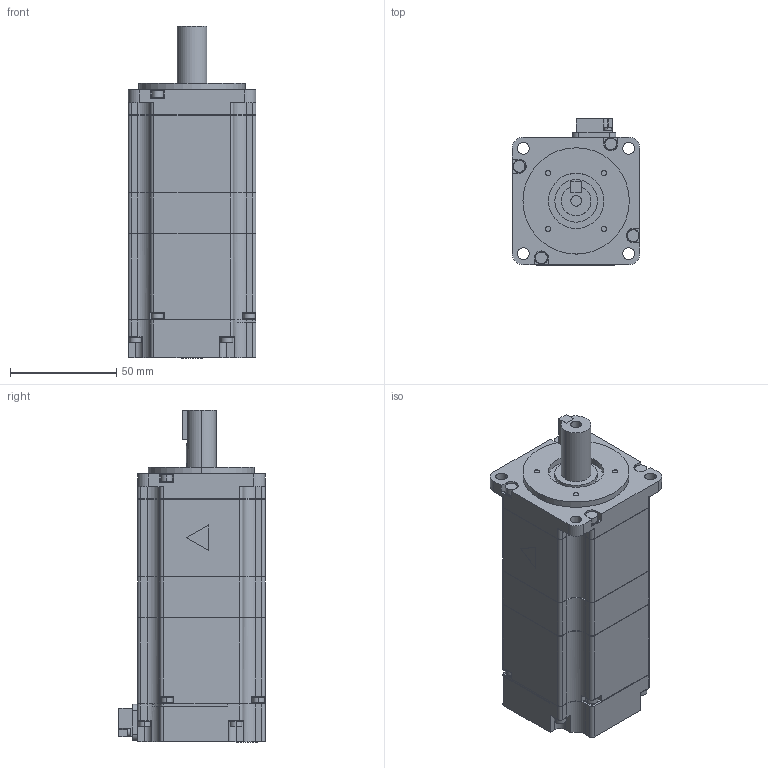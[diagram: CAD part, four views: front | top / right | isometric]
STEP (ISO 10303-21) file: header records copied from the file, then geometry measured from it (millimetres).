
FILE_DESCRIPTION (( 'STEP AP203' ), '1' );
FILE_NAME ('sgm7a_04a_a6c.STEP', '2015-12-21T22:34:39', ( '匠エンジニアリング山之内' ), ( 'TAKUMI-Engniaring' ), 'SwSTEP 2.0', 'SolidWorks 2006303', '' );
FILE_SCHEMA (( 'CONFIG_CONTROL_DESIGN' ));
Length unit declared in the file: millimetre
Products named in the file (3): sgm7a_04a_a6c; sgm7a_04a_a6c_base; sgm7a_04a_a6c_key
Assembly tree (2 placements, depth 2):
  sgm7a_04a_a6c
    sgm7a_04a_a6c_base
    sgm7a_04a_a6c_key
Bounding box: 60.1 x 68.8 x 156.1 mm (x, y, z)
Volume: 410978.9 mm3; surface area: 42545.4 mm2
Topology: 2 solids, 2 shells, 517 faces, 1355 edges, 898 vertices
Faces by surface type: plane 288, cylinder 229
Entity records: 16375 total; most frequent: DIRECTION 2870, CARTESIAN_POINT 2821, ORIENTED_EDGE 2710, EDGE_CURVE 1355, AXIS2_PLACEMENT_3D 997, VERTEX_POINT 898, VECTOR 876, LINE 876
